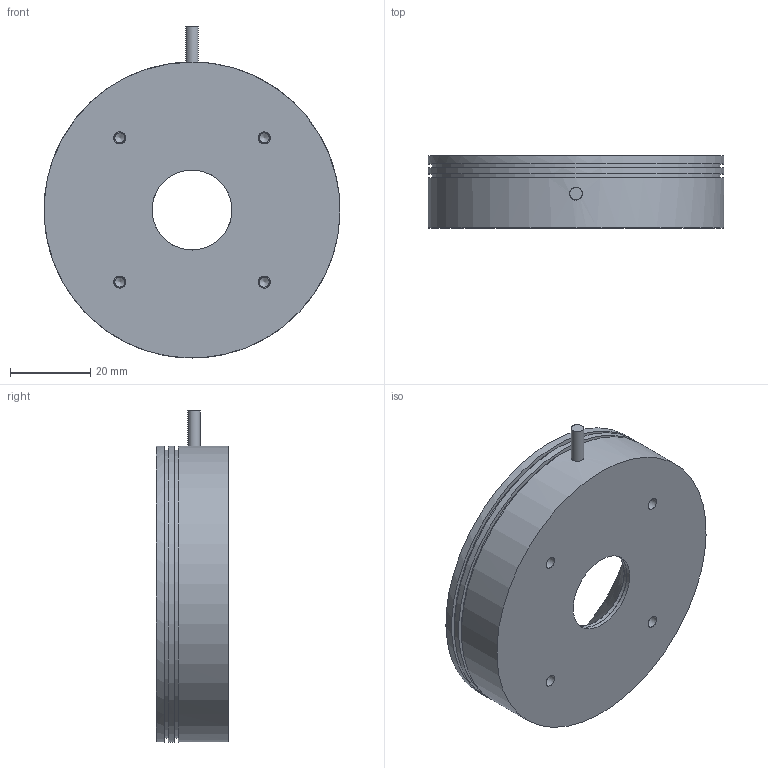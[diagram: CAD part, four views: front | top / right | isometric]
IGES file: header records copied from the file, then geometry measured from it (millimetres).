
Global section: file name: 153-00728_LR 70 xD-24-KFL5; native system: Autodesk Inventor 2018; preprocessor: unknown; author: ss; date: 20180726.094455; units: millimetre
Bounding box: 73.97 x 18 x 83 mm (x, y, z)
Volume: 56081.8 mm3; surface area: 24831.8 mm2
Topology: 3 solids, 3 shells, 49 faces, 124 edges, 92 vertices
Faces by surface type: bspline 49
